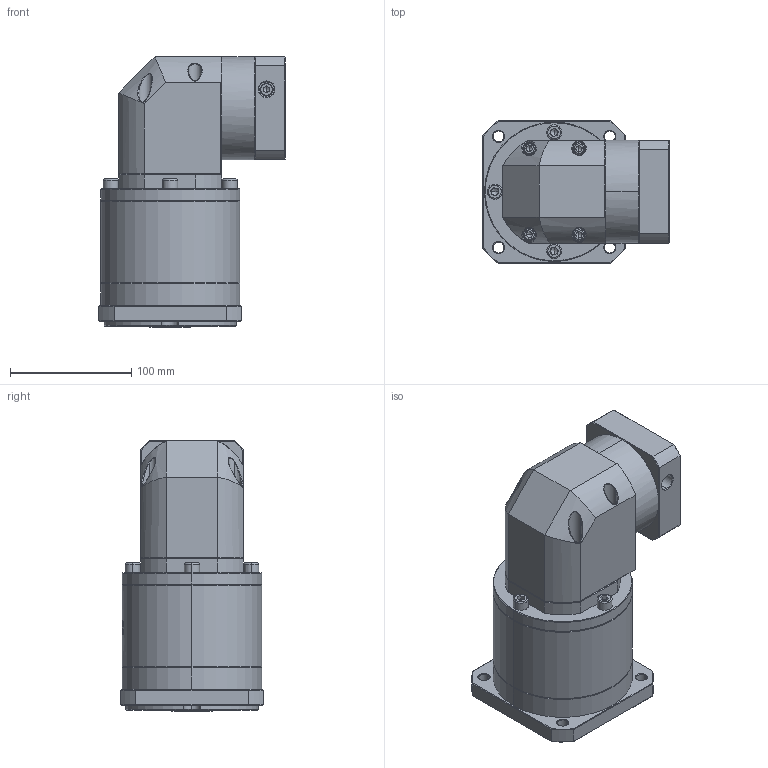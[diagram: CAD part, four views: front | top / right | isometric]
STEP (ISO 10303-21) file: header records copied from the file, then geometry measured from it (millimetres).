
FILE_DESCRIPTION (( 'STEP AP214' ), '1' );
FILE_NAME ('ZFR120A-K25-L3-P2-19-70-90-M6.step', '2023-08-27T09:22:29', ( '' ), ( '' ), 'SwSTEP 2.0', 'SolidWorks 2016', '' );
FILE_SCHEMA (( 'AUTOMOTIVE_DESIGN' ));
Length unit declared in the file: millimetre
Products named in the file (1): ZFR120A-K25-L3-P2-19-70-90-M6
Bounding box: 154.1 x 118 x 223.5 mm (x, y, z)
Volume: 2106949.8 mm3; surface area: 179249.5 mm2
Topology: 6 solids, 6 shells, 2338 faces, 6123 edges, 3891 vertices
Faces by surface type: plane 1148, bspline 434, cylinder 420, cone 322, torus 14
Entity records: 124570 total; most frequent: CARTESIAN_POINT 46793, ORIENTED_EDGE 12158, DIRECTION 8982, EDGE_CURVE 6079, VERTEX_POINT 3891, VECTOR 3286, LINE 3286, AXIS2_PLACEMENT_3D 2848
